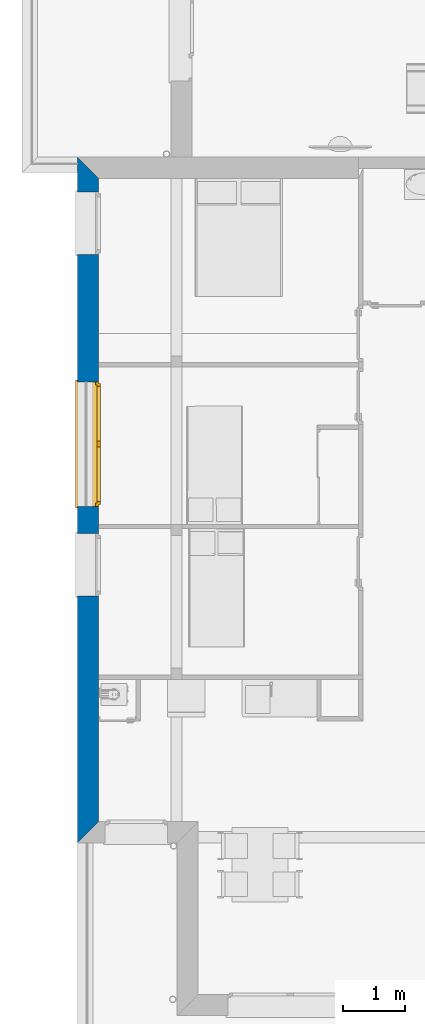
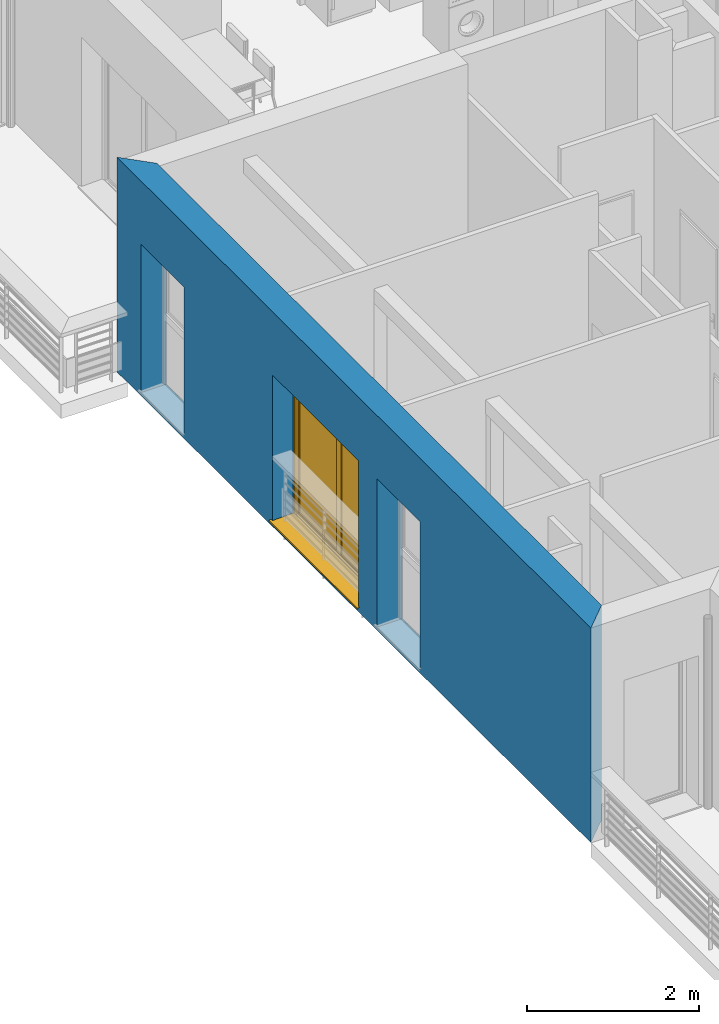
# One storey, part 8 of 165: 1 wall, 1 window, 3 openings.
"""IFC2X3 building model written with IfcOpenShell, lengths in millimetres."""

from ifc_helpers import new_model, entity, si_unit, converted_unit, derived_unit, money_unit, direction, frame, origin_with_axes, place, context, subcontext, project, spatial, polyline, outline, extrude, open_shell, faceted_brep, surface_model, source, transform, mapped, material, layer, layer_set, layer_usage, type_object, element, fill, save


model = new_model("IFC2X3")

# Units and contexts
model_context = context("Model", 3, precision=0.01, world=origin_with_axes(), true_north=direction((0.0, 1.0)))
body_context = subcontext(model_context, "Body", "Model", "MODEL_VIEW")
ifc_project = project(units=[si_unit("LENGTHUNIT", "METRE", prefix="MILLI"), si_unit("AREAUNIT", "SQUARE_METRE"), si_unit("VOLUMEUNIT", "CUBIC_METRE"), converted_unit("PLANEANGLEUNIT", "DEGREE", entity("IfcPlaneAngleMeasure", 0.0174532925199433), si_unit("PLANEANGLEUNIT", "RADIAN"), dimensions=[0, 0, 0, 0, 0, 0, 0]), money_unit("USD"), converted_unit("TIMEUNIT", "Year", entity("IfcTimeMeasure", 31557600.0), si_unit("TIMEUNIT", "SECOND"), dimensions=[0, 0, 1, 0, 0, 0, 0]), si_unit("MASSUNIT", "GRAM", prefix="KILO"), si_unit("THERMODYNAMICTEMPERATUREUNIT", "DEGREE_CELSIUS"), si_unit("LUMINOUSINTENSITYUNIT", "LUMEN"), si_unit("ENERGYUNIT", "JOULE", prefix="MEGA"), derived_unit("THERMALCONDUCTANCEUNIT", [(si_unit("POWERUNIT", "WATT"), 1), (si_unit("LENGTHUNIT", "METRE"), -1), (si_unit("THERMODYNAMICTEMPERATUREUNIT", "KELVIN"), -1)]), derived_unit("SPECIFICHEATCAPACITYUNIT", [(si_unit("ENERGYUNIT", "JOULE"), 1), (si_unit("MASSUNIT", "GRAM", prefix="KILO"), -1), (si_unit("THERMODYNAMICTEMPERATUREUNIT", "KELVIN"), -1)]), derived_unit("MASSDENSITYUNIT", [(si_unit("MASSUNIT", "GRAM", prefix="KILO"), 1), (si_unit("VOLUMEUNIT", "CUBIC_METRE"), -1)])], contexts=[model_context])

# Site, building, storey
site_placement = place(None, origin_with_axes())
site = spatial("IfcSite", under=ifc_project, at=site_placement, Name="Site", CompositionType="ELEMENT")
building_placement = place(site_placement, origin_with_axes())
building = spatial("IfcBuilding", under=site, at=building_placement, Name="Bâtiment", CompositionType="ELEMENT")
storey_placement = place(building_placement, frame((0.0, 0.0, 8500.0), z_axis=(0.0, 0.0, 1.0), x_axis=(1.0, 0.0, 0.0)))
storey = spatial("IfcBuildingStorey", under=building, at=storey_placement, Name="Etage 2", CompositionType="ELEMENT", Elevation=8500.0)

# Wall, openings, window
ifc_material_1 = material(Name="Parpaing 312445824")
ifc_layer_1 = layer(ifc_material_1, 180.0, ventilated="UNKNOWN")
ifc_material_2 = material(Name="Isolant styromousse 301821074")
ifc_layer_2 = layer(ifc_material_2, 160.0, ventilated="UNKNOWN")
ifc_layer_set = layer_set([ifc_layer_1, ifc_layer_2], Name="isol int 18+16 0018356637")
ifc_layer_usage = layer_usage(ifc_layer_set, "AXIS2", "POSITIVE", 0.0)
wall_type = type_object("IfcWallType", Name="isol int 18+16 0018356637 340", PredefinedType="NOTDEFINED")
wall_placement = place(storey_placement, frame((2216634.23334483, -644016.3765232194, 0.0), z_axis=(0.0, 0.0, 1.0), x_axis=(-5.736987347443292e-10, -1.0, 0.0)))
wall = element("IfcWallStandardCase", 1, at=wall_placement, inside=storey, type_object=wall_type, material=ifc_layer_usage, Name="Mur-143", context=body_context, shape_type="SweptSolid", body=[
    extrude(outline(polyline([(0.0, 0.0), (11025.09125507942, 0.0), (10685.09125488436, 340.0000000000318), (339.9999955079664, 340.0000000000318), (0.0, 0.0)])), origin_with_axes(), (0.0, 0.0, 1.0), 3050.0),
])
opening_1_placement = place(wall_placement, frame((4613.39090611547, 0.0, 50.00000000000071), z_axis=(0.0, 0.0, 1.0), x_axis=(1.0, 0.0, 0.0)))
opening_1 = element("IfcOpeningElement", 2, at=opening_1_placement, cuts=wall, Name="Fen-207", context=body_context, shape_type="Brep", body=[
    faceted_brep([(-1000.000000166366, 290.0000020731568, 2100.0), (-1000.000000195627, 341.0000020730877, 2100.0), (-1000.000000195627, 341.0000020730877, 0.0), (-1000.000000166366, 290.0000020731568, 0.0), (-1000.000000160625, 280.0000020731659, 2100.0), (-1000.000000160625, 280.0000020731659, 2350.0), (-1000.000000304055, 530.0000020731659, 2350.0), (-1000.000000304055, 530.0000020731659, 2100.0), (999.9999998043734, 341.0000032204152, 2100.0), (999.9999998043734, 341.0000032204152, 0.0), (999.9999998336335, 290.0000032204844, 0.0), (1000.000000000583, -1.000003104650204, 0.0), (-999.9999999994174, -1.000004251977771, 0.0), (-999.9999999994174, -1.000004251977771, 2100.0), (999.9999998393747, 280.0000032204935, 2100.0), (999.9999998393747, 280.0000032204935, 2350.0), (999.9999996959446, 530.0000032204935, 2350.0), (999.9999996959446, 530.0000032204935, 2100.0), (999.9999998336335, 290.0000032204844, 2100.0), (1000.000000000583, -1.000003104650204, 2100.0)], [[[0, 1, 2, 3]], [[1, 0, 4, 5, 6, 7]], [[1, 8, 9, 2]], [[10, 11, 12, 3, 2, 9]], [[4, 0, 3, 12, 13]], [[4, 14, 15, 5]], [[6, 5, 15, 16]], [[7, 6, 16, 17]], [[8, 1, 7, 17]], [[8, 18, 10, 9]], [[18, 14, 19, 11, 10]], [[13, 12, 11, 19]], [[14, 4, 13, 19]], [[18, 8, 17, 16, 15, 14]]]),
])
opening_2_placement = place(wall_placement, frame((6554.331148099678, 0.0, 50.00000000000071), z_axis=(0.0, 0.0, 1.0), x_axis=(1.0, 0.0, 0.0)))
element("IfcOpeningElement", 3, at=opening_2_placement, cuts=wall, Name="Fen-133", context=body_context, shape_type="Brep", body=[
    faceted_brep([(-500.0000001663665, 290.0000034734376, 2100.0), (-500.0000001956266, 341.0000034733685, 2100.0), (-500.0000001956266, 341.0000034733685, 0.0), (-500.0000001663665, 290.0000034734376, 0.0), (-500.0000001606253, 280.0000034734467, 2100.0), (-500.0000001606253, 280.0000034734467, 2350.0), (-500.0000003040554, 530.0000034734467, 2350.0), (-500.0000003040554, 530.0000034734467, 2100.0), (499.9999998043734, 341.0000040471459, 2100.0), (499.9999998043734, 341.0000040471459, 0.0), (499.9999998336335, 290.000004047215, 0.0), (500.0000000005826, -1.000002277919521, 0.0), (-499.9999999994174, -1.000002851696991, 0.0), (-499.9999999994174, -1.000002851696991, 2100.0), (499.9999998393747, 280.0000040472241, 2100.0), (499.9999998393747, 280.0000040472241, 2350.0), (499.9999996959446, 530.0000040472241, 2350.0), (499.9999996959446, 530.0000040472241, 2100.0), (499.9999998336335, 290.000004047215, 2100.0), (500.0000000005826, -1.000002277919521, 2100.0)], [[[0, 1, 2, 3]], [[1, 0, 4, 5, 6, 7]], [[1, 8, 9, 2]], [[10, 11, 12, 3, 2, 9]], [[4, 0, 3, 12, 13]], [[4, 14, 15, 5]], [[6, 5, 15, 16]], [[7, 6, 16, 17]], [[8, 1, 7, 17]], [[8, 18, 10, 9]], [[18, 14, 19, 11, 10]], [[13, 12, 11, 19]], [[14, 4, 13, 19]], [[18, 8, 17, 16, 15, 14]]]),
])
opening_3_placement = place(wall_placement, frame((1062.585342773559, 0.0, 50.00000000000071), z_axis=(0.0, 0.0, 1.0), x_axis=(1.0, 0.0, 0.0)))
element("IfcOpeningElement", 4, at=opening_3_placement, cuts=wall, Name="Fen-133", context=body_context, shape_type="Brep", body=[
    faceted_brep([(-500.0000001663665, 290.0000003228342, 2100.0), (-500.0000001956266, 341.0000003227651, 2100.0), (-500.0000001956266, 341.0000003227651, 0.0), (-500.0000001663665, 290.0000003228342, 0.0), (-500.0000001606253, 280.0000003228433, 2100.0), (-500.0000001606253, 280.0000003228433, 2350.0), (-500.0000003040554, 530.0000003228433, 2350.0), (-500.0000003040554, 530.0000003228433, 2100.0), (499.9999998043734, 341.0000008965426, 2100.0), (499.9999998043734, 341.0000008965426, 0.0), (499.9999998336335, 290.0000008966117, 0.0), (500.0000000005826, -1.000005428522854, 0.0), (-499.9999999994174, -1.000006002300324, 0.0), (-499.9999999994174, -1.000006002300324, 2100.0), (499.9999998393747, 280.0000008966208, 2100.0), (499.9999998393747, 280.0000008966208, 2350.0), (499.9999996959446, 530.0000008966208, 2350.0), (499.9999996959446, 530.0000008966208, 2100.0), (499.9999998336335, 290.0000008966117, 2100.0), (500.0000000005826, -1.000005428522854, 2100.0)], [[[0, 1, 2, 3]], [[1, 0, 4, 5, 6, 7]], [[1, 8, 9, 2]], [[10, 11, 12, 3, 2, 9]], [[4, 0, 3, 12, 13]], [[4, 14, 15, 5]], [[15, 16, 6, 5]], [[16, 17, 7, 6]], [[8, 1, 7, 17]], [[8, 18, 10, 9]], [[18, 14, 19, 11, 10]], [[13, 12, 11, 19]], [[14, 4, 13, 19]], [[18, 8, 17, 16, 15, 14]]]),
])
window_style = type_object("IfcWindowStyle", Name="Fenêtre châssis double variable 27", ConstructionType="NOTDEFINED", OperationType="DOUBLE_PANEL_VERTICAL", ParameterTakesPrecedence=False, Sizeable=False)
shared_shape = source(origin_with_axes(), body_context, "Body", "SurfaceModel", [
    surface_model("IfcShellBasedSurfaceModel", [(-1000.0, -51.00000000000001, 40.00000000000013), (1000.0, -51.00000000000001, 40.0), (1000.0, -51.00000000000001, 50.0), (-1000.0, -51.00000000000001, 50.00000000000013), (-1030.0, -369.9999999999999, 28.96551724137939), (1030.0, -369.9999999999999, 28.96551724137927), (1030.0, -339.9999999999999, 30.00324289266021), (1000.0, -339.9999999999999, 30.00324289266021), (-1000.0, -339.9999999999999, 30.00324289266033), (-1030.0, -339.9999999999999, 30.00324289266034), (-1030.0, -369.9999999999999, 8.965517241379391), (1030.0, -369.9999999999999, 8.965517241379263), (-1030.0, -359.9999999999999, 18.96551724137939), (1030.0, -359.9999999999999, 18.96551724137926)], [open_shell([[[0, 1, 2, 3]], [[4, 5, 6, 7, 1, 0, 8, 9]], [[10, 11, 5, 4]], [[12, 13, 11, 10]]])]),
    faceted_brep([(1000.0, -60.00000000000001, 2350.0), (1000.0, 190.0, 2350.0), (997.0, 190.0, 2350.0), (997.0, -60.00000000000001, 2350.0), (1000.0, -60.00000000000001, 2100.0), (1000.0, 190.0, 2100.0), (997.0, 190.0, 2100.0), (997.0, -60.00000000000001, 2100.0)], [[[0, 1, 2, 3]], [[0, 4, 5, 1]], [[1, 5, 6, 2]], [[3, 2, 6, 7]], [[4, 0, 3, 7]], [[5, 4, 7, 6]]]),
    faceted_brep([(-997.0000000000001, -59.99999999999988, 2350.0), (-997.0000000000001, 190.0000000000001, 2350.0), (-1000.0, 190.0000000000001, 2350.0), (-1000.0, -59.99999999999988, 2350.0), (-997.0000000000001, -59.99999999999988, 2100.0), (-997.0000000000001, 190.0000000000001, 2100.0), (-1000.0, 190.0000000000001, 2100.0), (-1000.0, -59.99999999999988, 2100.0)], [[[0, 1, 2, 3]], [[0, 4, 5, 1]], [[1, 5, 6, 2]], [[3, 2, 6, 7]], [[4, 0, 3, 7]], [[5, 4, 7, 6]]]),
    faceted_brep([(997.0, -60.0, 2100.0), (997.0, -60.0, 2350.0), (-997.0, -59.99999999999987, 2350.0), (-997.0, -59.99999999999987, 2100.0), (997.0, -56.99999999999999, 2100.0), (997.0, -56.99999999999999, 2347.0), (997.0, 187.0, 2347.0), (997.0, 187.0, 2103.0), (997.0, -37.99999999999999, 2103.0), (997.0, -37.99999999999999, 2100.0), (997.0, 190.0, 2100.0), (997.0, 190.0, 2350.0), (-997.0, 190.0000000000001, 2350.0), (-997.0, 190.0000000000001, 2100.0), (-997.0, -37.99999999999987, 2100.0), (-997.0, -37.99999999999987, 2103.0), (-997.0, 187.0000000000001, 2103.0), (-997.0, 187.0000000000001, 2347.0), (-997.0, -56.99999999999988, 2347.0), (-997.0, -56.99999999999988, 2100.0)], [[[0, 1, 2, 3]], [[0, 4, 5, 6, 7, 8, 9, 10, 11, 1]], [[1, 11, 12, 2]], [[3, 2, 12, 13, 14, 15, 16, 17, 18, 19]], [[4, 0, 3, 19]], [[5, 4, 19, 18]], [[6, 5, 18, 17]], [[7, 6, 17, 16]], [[8, 7, 16, 15]], [[9, 8, 15, 14]], [[10, 9, 14, 13]], [[11, 10, 13, 12]]]),
    faceted_brep([(994.0, -40.37442957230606, 2206.419644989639), (994.0, -35.54711042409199, 2188.403844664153), (994.0, -27.66471820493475, 2171.5), (994.0, -16.9667554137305, 2156.22172576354), (994.0, -3.778274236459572, 2143.03324458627), (994.0, 11.50000000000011, 2132.335281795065), (994.0, 28.40384466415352, 2124.452889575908), (994.0, 46.4196449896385, 2119.625570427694), (994.0, 65.00000000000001, 2118.0), (994.0, 83.58035501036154, 2119.625570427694), (994.0, 101.5961553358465, 2124.452889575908), (994.0, 118.4999999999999, 2132.335281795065), (994.0, 133.7782742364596, 2143.03324458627), (994.0, 146.9667554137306, 2156.22172576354), (994.0, 157.6647182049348, 2171.5), (994.0, 165.5471104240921, 2188.403844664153), (994.0, 170.3744295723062, 2206.419644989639), (994.0, 171.9999999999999, 2225.0), (994.0, 170.3744295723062, 2243.580355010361), (994.0, 165.5471104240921, 2261.596155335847), (994.0, 157.6647182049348, 2278.5), (994.0, 146.9667554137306, 2293.77827423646), (994.0, 133.7782742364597, 2306.966755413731), (994.0, 118.5, 2317.664718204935), (994.0, 101.5961553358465, 2325.547110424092), (994.0, 83.58035501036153, 2330.374429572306), (994.0, 64.99999999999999, 2332.0), (994.0, 46.41964498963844, 2330.374429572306), (994.0, 28.40384466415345, 2325.547110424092), (994.0, 11.5, 2317.664718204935), (994.0, -3.778274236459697, 2306.966755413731), (994.0, -16.96675541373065, 2293.77827423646), (994.0, -27.66471820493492, 2278.5), (994.0, -35.54711042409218, 2261.596155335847), (994.0, -40.37442957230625, 2243.580355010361), (994.0, -41.99999999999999, 2225.0), (-994.0, -40.37442957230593, 2206.419644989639), (-994.0, -35.54711042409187, 2188.403844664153), (-994.0, -27.66471820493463, 2171.5), (-994.0, -16.96675541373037, 2156.22172576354), (-994.0, -3.778274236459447, 2143.03324458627), (-994.0, 11.50000000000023, 2132.335281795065), (-994.0, 28.40384466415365, 2124.452889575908), (-994.0, 46.41964498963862, 2119.625570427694), (-994.0, 65.00000000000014, 2118.0), (-994.0, 83.58035501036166, 2119.625570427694), (-994.0, 101.5961553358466, 2124.452889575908), (-994.0, 118.5000000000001, 2132.335281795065), (-994.0, 133.7782742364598, 2143.03324458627), (-994.0, 146.9667554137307, 2156.22172576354), (-994.0, 157.6647182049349, 2171.5), (-994.0, 165.5471104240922, 2188.403844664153), (-994.0, 170.3744295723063, 2206.419644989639), (-994.0, 172.0, 2225.0), (-994.0, 170.3744295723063, 2243.580355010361), (-994.0, 165.5471104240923, 2261.596155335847), (-994.0, 157.664718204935, 2278.5), (-994.0, 146.9667554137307, 2293.77827423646), (-994.0, 133.7782742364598, 2306.966755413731), (-994.0, 118.5000000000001, 2317.664718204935), (-994.0, 101.5961553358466, 2325.547110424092), (-994.0, 83.58035501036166, 2330.374429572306), (-994.0, 65.00000000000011, 2332.0), (-994.0, 46.41964498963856, 2330.374429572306), (-994.0, 28.40384466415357, 2325.547110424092), (-994.0, 11.50000000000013, 2317.664718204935), (-994.0, -3.778274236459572, 2306.966755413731), (-994.0, -16.96675541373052, 2293.77827423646), (-994.0, -27.6647182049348, 2278.5), (-994.0, -35.54711042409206, 2261.596155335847), (-994.0, -40.37442957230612, 2243.580355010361), (-994.0, -41.99999999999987, 2225.0)], [[[0, 1, 2, 3, 4, 5, 6, 7, 8, 9, 10, 11, 12, 13, 14, 15, 16, 17, 18, 19, 20, 21, 22, 23, 24, 25, 26, 27, 28, 29, 30, 31, 32, 33, 34, 35]], [[1, 0, 36, 37]], [[2, 1, 37, 38]], [[3, 2, 38, 39]], [[4, 3, 39, 40]], [[5, 4, 40, 41]], [[6, 5, 41, 42]], [[7, 6, 42, 43]], [[8, 7, 43, 44]], [[9, 8, 44, 45]], [[10, 9, 45, 46]], [[11, 10, 46, 47]], [[12, 11, 47, 48]], [[13, 12, 48, 49]], [[14, 13, 49, 50]], [[15, 14, 50, 51]], [[16, 15, 51, 52]], [[17, 16, 52, 53]], [[18, 17, 53, 54]], [[19, 18, 54, 55]], [[20, 19, 55, 56]], [[21, 20, 56, 57]], [[22, 21, 57, 58]], [[23, 22, 58, 59]], [[24, 23, 59, 60]], [[25, 24, 60, 61]], [[26, 25, 61, 62]], [[27, 26, 62, 63]], [[28, 27, 63, 64]], [[29, 28, 64, 65]], [[30, 29, 65, 66]], [[31, 30, 66, 67]], [[32, 31, 67, 68]], [[33, 32, 68, 69]], [[34, 33, 69, 70]], [[35, 34, 70, 71]], [[0, 35, 71, 36]], [[36, 71, 70, 69, 68, 67, 66, 65, 64, 63, 62, 61, 60, 59, 58, 57, 56, 55, 54, 53, 52, 51, 50, 49, 48, 47, 46, 45, 44, 43, 42, 41, 40, 39, 38, 37]]]),
    faceted_brep([(-1000.0, -34.99999999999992, 30.0), (-1000.0, -59.99999999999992, 30.0), (-1000.0, -59.99999999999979, 2100.0), (-1000.0, -34.99999999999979, 2100.0), (-975.0, -34.99999999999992, 30.0), (-975.0, -37.99999999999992, 30.0), (-997.0, -37.99999999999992, 30.0), (-997.0, -56.99999999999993, 30.0), (-975.0, -56.99999999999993, 30.0), (-975.0, -59.99999999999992, 30.0), (-975.0, -59.99999999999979, 2100.0), (-975.0, -56.99999999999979, 2100.0), (-997.0, -56.99999999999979, 2100.0), (-997.0, -37.99999999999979, 2100.0), (-975.0, -37.99999999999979, 2100.0), (-975.0, -34.99999999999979, 2100.0)], [[[0, 1, 2, 3]], [[0, 4, 5, 6, 7, 8, 9, 1]], [[1, 9, 10, 2]], [[3, 2, 10, 11, 12, 13, 14, 15]], [[4, 0, 3, 15]], [[5, 4, 15, 14]], [[6, 5, 14, 13]], [[7, 6, 13, 12]], [[8, 7, 12, 11]], [[9, 8, 11, 10]]]),
    faceted_brep([(1000.0, -34.99999999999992, 30.0), (1000.0, -34.99999999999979, 2100.0), (1000.0, -59.99999999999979, 2100.0), (1000.0, -59.99999999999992, 30.0), (975.0, -34.99999999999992, 30.0), (975.0, -34.99999999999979, 2100.0), (975.0, -37.99999999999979, 2100.0), (997.0, -37.99999999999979, 2100.0), (997.0, -56.99999999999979, 2100.0), (975.0, -56.99999999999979, 2100.0), (975.0, -59.99999999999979, 2100.0), (975.0, -59.99999999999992, 30.0), (975.0, -56.99999999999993, 30.0), (997.0, -56.99999999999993, 30.0), (997.0, -37.99999999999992, 30.0), (975.0, -37.99999999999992, 30.0)], [[[0, 1, 2, 3]], [[4, 5, 1, 0]], [[1, 5, 6, 7, 8, 9, 10, 2]], [[3, 2, 10, 11]], [[0, 3, 11, 12, 13, 14, 15, 4]], [[15, 6, 5, 4]], [[14, 7, 6, 15]], [[13, 8, 7, 14]], [[12, 9, 8, 13]], [[11, 10, 9, 12]]]),
    faceted_brep([(-997.0, -46.66666666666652, 2225.0), (997.0, -46.66666666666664, 2225.0), (997.0, -46.66666666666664, 2216.666666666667), (-997.0, -46.66666666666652, 2216.666666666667), (-997.0, -51.66666666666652, 2225.0), (997.0, -51.66666666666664, 2225.0), (997.0, -51.66666666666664, 2216.666666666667), (997.0, -49.99999999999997, 2200.0), (997.0, -44.99999999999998, 2200.0), (-997.0, -44.99999999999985, 2200.0), (-997.0, -49.99999999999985, 2200.0), (-997.0, -51.66666666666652, 2216.666666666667)], [[[0, 1, 2, 3]], [[1, 0, 4, 5]], [[1, 5, 6, 7, 8, 2]], [[2, 8, 9, 3]], [[4, 0, 3, 9, 10, 11]], [[6, 5, 4, 11]], [[7, 6, 11, 10]], [[8, 7, 10, 9]]]),
    faceted_brep([(997.0, -44.99999999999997, 2200.0), (997.0, -46.66666666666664, 2183.333333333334), (-997.0, -46.66666666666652, 2183.333333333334), (-997.0, -44.99999999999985, 2200.0), (997.0, -49.99999999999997, 2200.0), (997.0, -51.66666666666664, 2183.333333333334), (997.0, -51.66666666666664, 2166.666666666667), (997.0, -49.99999999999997, 2150.000000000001), (997.0, -44.99999999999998, 2150.000000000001), (997.0, -46.66666666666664, 2166.666666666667), (-997.0, -46.66666666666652, 2166.666666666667), (-997.0, -44.99999999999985, 2150.000000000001), (-997.0, -49.99999999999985, 2150.000000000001), (-997.0, -51.66666666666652, 2166.666666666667), (-997.0, -51.66666666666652, 2183.333333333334), (-997.0, -49.99999999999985, 2200.0)], [[[0, 1, 2, 3]], [[0, 4, 5, 6, 7, 8, 9, 1]], [[1, 9, 10, 2]], [[3, 2, 10, 11, 12, 13, 14, 15]], [[4, 0, 3, 15]], [[5, 4, 15, 14]], [[6, 5, 14, 13]], [[7, 6, 13, 12]], [[8, 7, 12, 11]], [[9, 8, 11, 10]]]),
    faceted_brep([(997.0, -44.99999999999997, 2150.000000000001), (997.0, -46.66666666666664, 2133.333333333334), (-997.0, -46.66666666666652, 2133.333333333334), (-997.0, -44.99999999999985, 2150.000000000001), (997.0, -49.99999999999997, 2150.000000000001), (997.0, -51.66666666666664, 2133.333333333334), (997.0, -51.66666666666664, 2116.666666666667), (997.0, -49.99999999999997, 2100.000000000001), (997.0, -44.99999999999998, 2100.000000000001), (997.0, -46.66666666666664, 2116.666666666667), (-997.0, -46.66666666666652, 2116.666666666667), (-997.0, -44.99999999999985, 2100.000000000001), (-997.0, -49.99999999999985, 2100.000000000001), (-997.0, -51.66666666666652, 2116.666666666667), (-997.0, -51.66666666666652, 2133.333333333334), (-997.0, -49.99999999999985, 2150.000000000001)], [[[0, 1, 2, 3]], [[0, 4, 5, 6, 7, 8, 9, 1]], [[1, 9, 10, 2]], [[3, 2, 10, 11, 12, 13, 14, 15]], [[4, 0, 3, 15]], [[5, 4, 15, 14]], [[6, 5, 14, 13]], [[7, 6, 13, 12]], [[8, 7, 12, 11]], [[9, 8, 11, 10]]]),
    faceted_brep([(975.0, 0.0, 2050.0), (975.0, -25.00000000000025, 2050.0), (950.0, -25.00000000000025, 2050.0), (950.0, -50.00000000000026, 2050.0), (1000.0, -50.00000000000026, 2050.0), (1000.0, 0.0, 2050.0), (975.0, 0.0, 50.00000000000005), (975.0, -25.00000000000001, 50.00000000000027), (950.0, -25.00000000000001, 50.00000000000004), (950.0, -50.00000000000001, 50.00000000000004), (1000.0, -50.00000000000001, 50.00000000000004), (1000.0, 0.0, 50.00000000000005)], [[[0, 1, 2, 3, 4, 5]], [[1, 0, 6, 7]], [[8, 2, 1, 7]], [[2, 8, 9, 3]], [[4, 3, 9, 10]], [[5, 4, 10, 11]], [[6, 0, 5, 11]], [[7, 6, 11, 10, 9, 8]]]),
    faceted_brep([(-950.0, -25.00000000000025, 2050.0), (-975.0, -25.00000000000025, 2050.0), (-975.0, 0.0, 2050.0), (-1000.0, 0.0, 2050.0), (-1000.0, -50.00000000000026, 2050.0), (-950.0, -50.00000000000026, 2050.0), (-950.0, -25.00000000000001, 50.00000000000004), (-975.0, -25.00000000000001, 50.00000000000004), (-975.0, 0.0, 50.00000000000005), (-1000.0, 0.0, 50.00000000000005), (-1000.0, -50.00000000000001, 50.00000000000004), (-950.0, -50.00000000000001, 50.00000000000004)], [[[0, 1, 2, 3, 4, 5]], [[1, 0, 6, 7]], [[8, 2, 1, 7]], [[2, 8, 9, 3]], [[9, 10, 4, 3]], [[10, 11, 5, 4]], [[6, 0, 5, 11]], [[7, 6, 11, 10, 9, 8]]]),
    faceted_brep([(-950.0, -25.00000000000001, 50.00000000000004), (-975.0, -25.00000000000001, 50.00000000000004), (-975.0, 0.0, 50.00000000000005), (-1000.0, 0.0, 50.00000000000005), (-1000.0, -50.00000000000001, 50.00000000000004), (-950.0, -50.00000000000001, 50.00000000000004), (950.0, -25.00000000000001, 50.00000000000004), (975.0, -25.00000000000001, 50.00000000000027), (975.0, -25.0, 24.99999999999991), (-975.0, -25.0, 24.99999999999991), (-975.0, 0.0, 24.99999999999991), (975.0, 0.0, 24.99999999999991), (975.0, 0.0, 50.00000000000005), (1000.0, 0.0, 50.00000000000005), (1000.0, 0.0, 0.0), (-1000.0, 0.0, 0.0), (-1000.0, -50.0, 0.0), (1000.0, -50.00000000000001, 50.00000000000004), (950.0, -50.00000000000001, 50.00000000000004), (1000.0, -50.0, 0.0)], [[[0, 1, 2, 3, 4, 5]], [[1, 0, 6, 7, 8, 9]], [[10, 2, 1, 9]], [[11, 12, 13, 14, 15, 3, 2, 10]], [[15, 16, 4, 3]], [[17, 18, 5, 4, 16, 19]], [[6, 0, 5, 18]], [[7, 6, 18, 17, 13, 12]], [[7, 12, 11, 8]], [[11, 10, 9, 8]], [[13, 17, 19, 14]], [[14, 19, 16, 15]]]),
    faceted_brep([(975.0, 0.0, 2050.0), (975.0, 0.0, 2075.0), (-975.0, 0.0, 2075.0), (-975.0, 0.0, 2050.0), (-1000.0, 0.0, 2050.0), (-1000.0, 0.0, 2100.0), (1000.0, 0.0, 2100.0), (1000.0, 0.0, 2050.0), (975.0, -25.00000000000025, 2050.0), (975.0, -25.00000000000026, 2075.0), (-975.0, -25.00000000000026, 2075.0), (-975.0, -25.00000000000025, 2050.0), (-950.0, -25.00000000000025, 2050.0), (-950.0, -50.00000000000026, 2050.0), (-1000.0, -50.00000000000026, 2050.0), (-1000.0, -50.00000000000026, 2100.0), (1000.0, -50.00000000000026, 2100.0), (1000.0, -50.00000000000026, 2050.0), (950.0, -50.00000000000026, 2050.0), (950.0, -25.00000000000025, 2050.0)], [[[0, 1, 2, 3, 4, 5, 6, 7]], [[1, 0, 8, 9]], [[2, 1, 9, 10]], [[3, 2, 10, 11]], [[11, 12, 13, 14, 4, 3]], [[4, 14, 15, 5]], [[5, 15, 16, 6]], [[6, 16, 17, 7]], [[8, 0, 7, 17, 18, 19]], [[12, 11, 10, 9, 8, 19]], [[12, 19, 18, 13]], [[14, 13, 18, 17, 16, 15]]]),
    faceted_brep([(925.0, -25.00000000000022, 2025.0), (975.0, -25.00000000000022, 2025.0), (975.0, 24.99999999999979, 2025.0), (925.0, 24.99999999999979, 2025.0), (925.0, -24.99999999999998, 75.00000000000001), (975.0, -24.99999999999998, 75.00000000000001), (975.0, 25.00000000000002, 75.00000000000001), (925.0, 25.00000000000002, 75.00000000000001)], [[[0, 1, 2, 3]], [[0, 4, 5, 1]], [[1, 5, 6, 2]], [[3, 2, 6, 7]], [[4, 0, 3, 7]], [[5, 4, 7, 6]]]),
    faceted_brep([(49.99999999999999, -25.00000000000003, 75.00000000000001), (0.0, -25.00000000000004, 75.00000000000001), (0.0, 24.99999999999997, 75.00000000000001), (49.99999999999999, 24.99999999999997, 75.00000000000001), (49.99999999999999, -25.00000000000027, 2025.0), (0.0, -25.00000000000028, 2025.0), (0.0, 24.99999999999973, 2025.0), (49.99999999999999, 24.99999999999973, 2025.0)], [[[0, 1, 2, 3]], [[0, 4, 5, 1]], [[1, 5, 6, 2]], [[3, 2, 6, 7]], [[4, 0, 3, 7]], [[5, 4, 7, 6]]]),
    faceted_brep([(0.0, -25.00000000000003, 25.0), (0.0, -25.00000000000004, 75.00000000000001), (0.0, 24.99999999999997, 75.00000000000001), (0.0, 24.99999999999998, 25.00000000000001), (975.0, -24.99999999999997, 25.0), (975.0, -24.99999999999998, 75.00000000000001), (925.0, -24.99999999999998, 75.00000000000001), (49.99999999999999, -25.00000000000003, 75.00000000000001), (49.99999999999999, 24.99999999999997, 75.00000000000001), (925.0, 25.00000000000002, 75.00000000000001), (975.0, 25.00000000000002, 75.00000000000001), (975.0, 25.00000000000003, 25.00000000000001)], [[[0, 1, 2, 3]], [[0, 4, 5, 6, 7, 1]], [[1, 7, 8, 2]], [[3, 2, 8, 9, 10, 11]], [[4, 0, 3, 11]], [[5, 4, 11, 10]], [[6, 5, 10, 9]], [[7, 6, 9, 8]]]),
    faceted_brep([(975.0, -25.00000000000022, 2075.0), (975.0, -25.00000000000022, 2025.0), (975.0, 24.99999999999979, 2025.0), (975.0, 24.99999999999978, 2075.0), (0.0, -25.00000000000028, 2075.0), (0.0, -25.00000000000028, 2025.0), (49.99999999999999, -25.00000000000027, 2025.0), (925.0, -25.00000000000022, 2025.0), (925.0, 24.99999999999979, 2025.0), (49.99999999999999, 24.99999999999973, 2025.0), (0.0, 24.99999999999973, 2025.0), (0.0, 24.99999999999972, 2075.0)], [[[0, 1, 2, 3]], [[0, 4, 5, 6, 7, 1]], [[1, 7, 8, 2]], [[3, 2, 8, 9, 10, 11]], [[4, 0, 3, 11]], [[5, 4, 11, 10]], [[6, 5, 10, 9]], [[7, 6, 9, 8]]]),
    surface_model("IfcShellBasedSurfaceModel", [(925.0, -10.00000000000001, 75.00000000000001), (925.0, -10.00000000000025, 2025.0), (49.99999999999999, -10.00000000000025, 2025.0), (49.99999999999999, -10.00000000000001, 75.00000000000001)], [open_shell([[[0, 1, 2, 3]]])]),
    surface_model("IfcShellBasedSurfaceModel", [(925.0, 9.999999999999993, 75.00000000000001), (49.99999999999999, 9.999999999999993, 75.00000000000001), (49.99999999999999, 9.999999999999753, 2025.0), (925.0, 9.999999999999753, 2025.0)], [open_shell([[[0, 1, 2, 3]]])]),
    faceted_brep([(-49.99999999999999, -25.00000000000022, 2025.0), (0.0, -25.00000000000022, 2025.0), (0.0, 24.99999999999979, 2025.0), (-49.99999999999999, 24.99999999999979, 2025.0), (-49.99999999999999, -24.99999999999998, 75.00000000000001), (0.0, -24.99999999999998, 75.00000000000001), (0.0, 25.00000000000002, 75.00000000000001), (-49.99999999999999, 25.00000000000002, 75.00000000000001)], [[[0, 1, 2, 3]], [[0, 4, 5, 1]], [[1, 5, 6, 2]], [[3, 2, 6, 7]], [[4, 0, 3, 7]], [[5, 4, 7, 6]]]),
    faceted_brep([(-925.0, -25.00000000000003, 75.00000000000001), (-975.0, -25.00000000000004, 75.00000000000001), (-975.0, 24.99999999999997, 75.00000000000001), (-925.0, 24.99999999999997, 75.00000000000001), (-925.0, -25.00000000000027, 2025.0), (-975.0, -25.00000000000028, 2025.0), (-975.0, 24.99999999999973, 2025.0), (-925.0, 24.99999999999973, 2025.0)], [[[0, 1, 2, 3]], [[0, 4, 5, 1]], [[1, 5, 6, 2]], [[3, 2, 6, 7]], [[4, 0, 3, 7]], [[5, 4, 7, 6]]]),
    faceted_brep([(-975.0, -25.00000000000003, 25.0), (-975.0, -25.00000000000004, 75.00000000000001), (-975.0, 24.99999999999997, 75.00000000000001), (-975.0, 24.99999999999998, 25.00000000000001), (0.0, -24.99999999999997, 25.0), (0.0, -24.99999999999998, 75.00000000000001), (-49.99999999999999, -24.99999999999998, 75.00000000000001), (-925.0, -25.00000000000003, 75.00000000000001), (-925.0, 24.99999999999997, 75.00000000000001), (-49.99999999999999, 25.00000000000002, 75.00000000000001), (0.0, 25.00000000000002, 75.00000000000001), (0.0, 25.00000000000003, 25.00000000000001)], [[[0, 1, 2, 3]], [[0, 4, 5, 6, 7, 1]], [[1, 7, 8, 2]], [[3, 2, 8, 9, 10, 11]], [[4, 0, 3, 11]], [[5, 4, 11, 10]], [[6, 5, 10, 9]], [[7, 6, 9, 8]]]),
    faceted_brep([(0.0, -25.00000000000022, 2075.0), (0.0, -25.00000000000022, 2025.0), (0.0, 24.99999999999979, 2025.0), (0.0, 24.99999999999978, 2075.0), (-975.0, -25.00000000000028, 2075.0), (-975.0, -25.00000000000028, 2025.0), (-925.0, -25.00000000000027, 2025.0), (-49.99999999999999, -25.00000000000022, 2025.0), (-49.99999999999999, 24.99999999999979, 2025.0), (-925.0, 24.99999999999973, 2025.0), (-975.0, 24.99999999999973, 2025.0), (-975.0, 24.99999999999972, 2075.0)], [[[0, 1, 2, 3]], [[0, 4, 5, 6, 7, 1]], [[1, 7, 8, 2]], [[3, 2, 8, 9, 10, 11]], [[4, 0, 3, 11]], [[5, 4, 11, 10]], [[6, 5, 10, 9]], [[7, 6, 9, 8]]]),
    surface_model("IfcShellBasedSurfaceModel", [(-49.99999999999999, -10.00000000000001, 75.00000000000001), (-49.99999999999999, -10.00000000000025, 2025.0), (-925.0, -10.00000000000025, 2025.0), (-925.0, -10.00000000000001, 75.00000000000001)], [open_shell([[[0, 1, 2, 3]]])]),
    surface_model("IfcShellBasedSurfaceModel", [(-49.99999999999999, 9.999999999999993, 75.00000000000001), (-925.0, 9.999999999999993, 75.00000000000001), (-925.0, 9.999999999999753, 2025.0), (-49.99999999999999, 9.999999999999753, 2025.0)], [open_shell([[[0, 1, 2, 3]]])]),
])
window_placement = place(opening_1_placement, frame((-999.9999999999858, -1.13686837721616e-10, 0.0), z_axis=(0.0, 0.0, 1.0), x_axis=(1.0, 0.0, 0.0)))
window = element("IfcWindow", 5, at=window_placement, inside=storey, type_object=window_style, Name="Fen-207", OverallHeight=2100.0, OverallWidth=2000.0, context=body_context, shape_type="MappedRepresentation", body=[
    mapped(shared_shape, transform((999.9999998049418, 340.0000026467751, 0.0))),
])
fill(opening_1, window)

save(model, "model.ifc")
